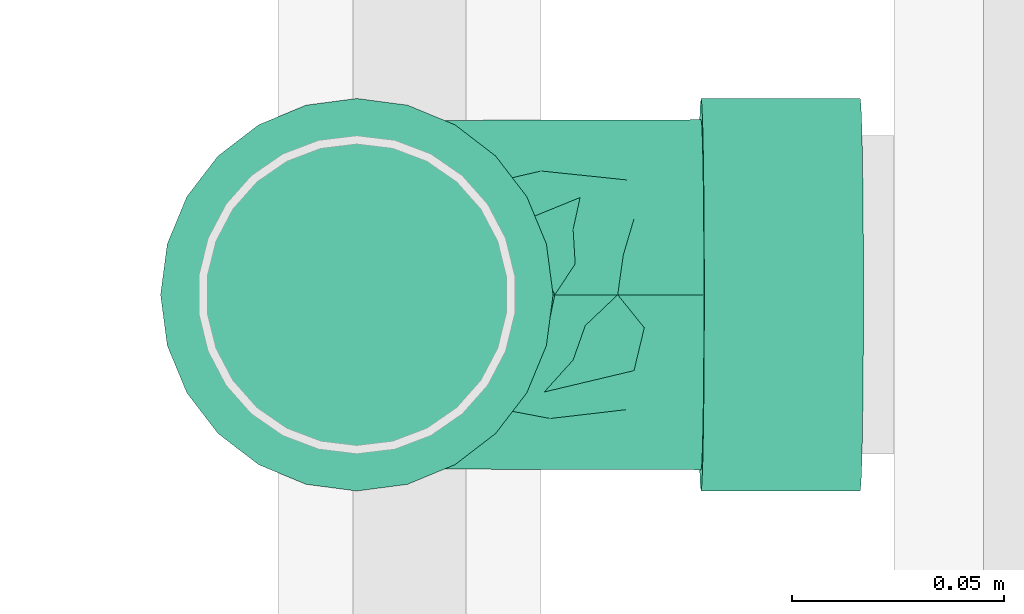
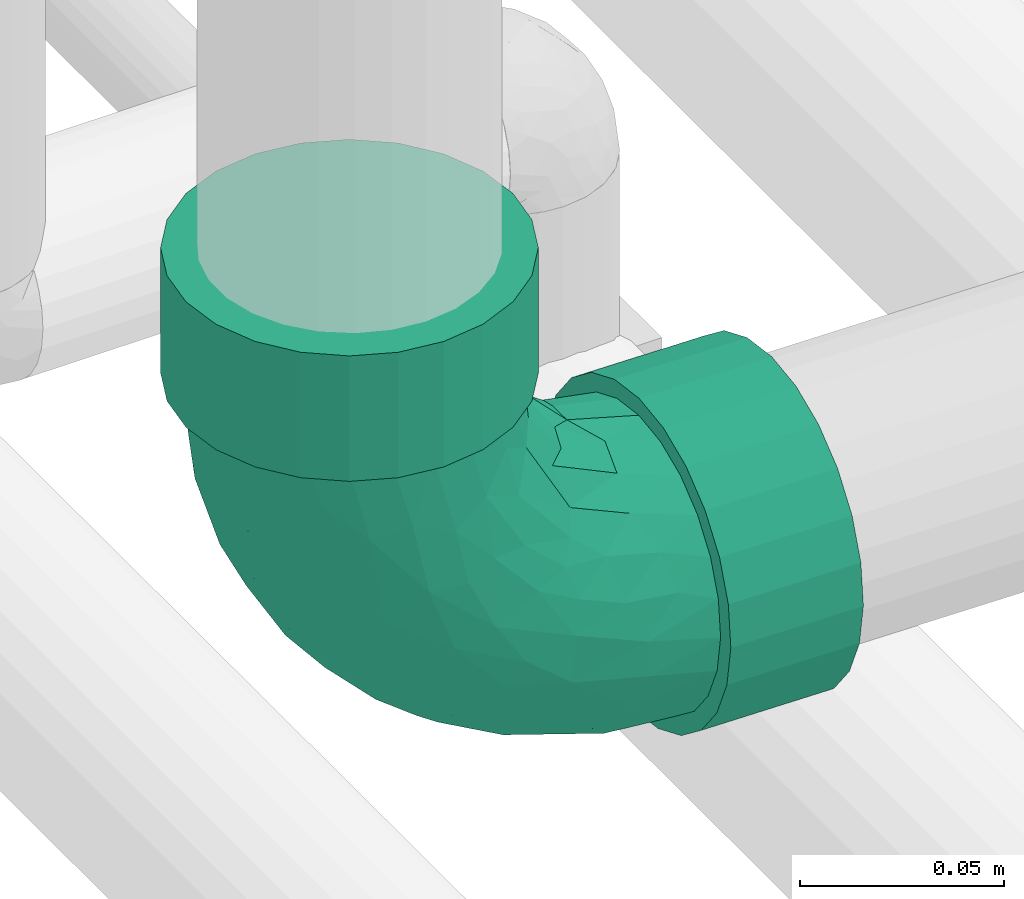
# One storey, part 54 of 83: 1 flow fitting.
"""IFC2X3 building model written with IfcOpenShell, lengths in millimetres."""

import ifcopenshell
import ifcopenshell.guid

model = None  # the IFC model being written
_history = None  # IfcOwnerHistory: only IFC2X3 demands one
_inside = {}  # id of a spatial element -> (the spatial element, [elements in it])
_under = {}  # id of a project, library or spatial element -> (it, [spatial elements below it])
_declared = {}  # id of a project -> (the project, [libraries it declares])
_typed = {}  # id of a type object -> (the type object, [elements of that type])
_made_of = {}  # id of a material, layer set ... -> (it, [elements and type objects made of it])


def new_model(schema):
    """Start an empty IFC model of exactly this schema.

    Asked for "IFC4X3", IfcOpenShell would pick the latest addendum, in which some entities
    have other attributes; the version numbers below select the first issue.
    IFC2X3 requires an IfcOwnerHistory on every rooted entity: one is made here for all.
    """
    global model, _history
    if schema == "IFC4X3":
        model = ifcopenshell.file(schema_version=(4, 3, 0, 0))
    else:
        model = ifcopenshell.file(schema=schema)
    _inside.clear()
    _under.clear()
    _declared.clear()
    _typed.clear()
    _made_of.clear()
    _history = None
    if model.schema == "IFC2X3":
        org = make("IfcOrganization", Name="unknown")
        user = make(
            "IfcPersonAndOrganization",
            ThePerson=make("IfcPerson", FamilyName="unknown"),
            TheOrganization=org,
        )
        app = make(
            "IfcApplication",
            ApplicationDeveloper=org,
            Version="unknown",
            ApplicationFullName="unknown",
            ApplicationIdentifier="unknown",
        )
        _history = make(
            "IfcOwnerHistory",
            OwningUser=user,
            OwningApplication=app,
            ChangeAction="ADDED",
            CreationDate=0,
        )
    return model


def make(cls, **values):
    """One entity of the class cls with the attributes given. An attribute that is None is left unset."""
    return model.create_entity(
        cls, **{name: value for name, value in values.items() if value is not None}
    )


def entity(cls, *values):
    """Any entity or typed value of the class cls, its attributes in the order of the schema. None: left unset."""
    e = model.create_entity(cls)
    for i, value in enumerate(values):
        if value is not None:
            e[i] = value
    return e


def rooted(cls, **values):
    """An entity with a GlobalId (a new one), such as an element, a storey or a relation."""
    return make(cls, GlobalId=ifcopenshell.guid.new(), OwnerHistory=_history, **values)


def si_unit(unit_type, name, prefix=None):
    """IfcSIUnit, for example si_unit("LENGTHUNIT", "METRE", prefix="MILLI")."""
    return make("IfcSIUnit", UnitType=unit_type, Prefix=prefix, Name=name)


def converted_unit(unit_type, name, factor, base, dimensions=None, offset=None):
    """IfcConversionBasedUnit, such as the inch: factor (a typed value) times the base unit."""
    return make(
        "IfcConversionBasedUnit"
        if offset is None
        else "IfcConversionBasedUnitWithOffset",
        ConversionOffset=offset,
        Dimensions=None
        if dimensions is None
        else entity("IfcDimensionalExponents", *dimensions),
        UnitType=unit_type,
        Name=name,
        ConversionFactor=make(
            "IfcMeasureWithUnit", ValueComponent=factor, UnitComponent=base
        ),
    )


def derived_unit(unit_type, elements):
    """IfcDerivedUnit: a product of units, each with its exponent."""
    return make(
        "IfcDerivedUnit",
        Elements=[
            make("IfcDerivedUnitElement", Unit=unit, Exponent=power)
            for unit, power in elements
        ],
        UnitType=unit_type,
    )


def assignment(units):
    """IfcUnitAssignment: the units of a project."""
    return None if units is None else make("IfcUnitAssignment", Units=units)


def point(xyz):
    """IfcCartesianPoint."""
    return None if xyz is None else make("IfcCartesianPoint", Coordinates=xyz)


def direction(xyz):
    """IfcDirection."""
    return None if xyz is None else make("IfcDirection", DirectionRatios=xyz)


def frame(location, z_axis=None, x_axis=None):
    """IfcAxis2Placement3D, a coordinate frame: its origin and axes. An axis left out is left unset."""
    return make(
        "IfcAxis2Placement3D",
        Location=point(location),
        Axis=direction(z_axis),
        RefDirection=direction(x_axis),
    )


def origin_with_axes():
    """The frame at (0, 0, 0) with the z axis (0, 0, 1) and the x axis (1, 0, 0) written out."""
    return frame((0.0, 0.0, 0.0), z_axis=(0.0, 0.0, 1.0), x_axis=(1.0, 0.0, 0.0))


def place(relative_to, where):
    """IfcLocalPlacement: puts the frame where relative to a parent placement (None: the world)."""
    return make(
        "IfcLocalPlacement", PlacementRelTo=relative_to, RelativePlacement=where
    )


def context(
    kind, dimensions, precision=None, world=None, true_north=None, identifier=None
):
    """IfcGeometricRepresentationContext, for example the 3D "Model" context."""
    return make(
        "IfcGeometricRepresentationContext",
        ContextIdentifier=identifier,
        ContextType=kind,
        CoordinateSpaceDimension=dimensions,
        Precision=precision,
        WorldCoordinateSystem=world,
        TrueNorth=true_north,
    )


def subcontext(parent, identifier, kind, view, scale=None):
    """IfcGeometricRepresentationSubContext, for example "Body" below "Model"."""
    return make(
        "IfcGeometricRepresentationSubContext",
        ContextIdentifier=identifier,
        ContextType=kind,
        ParentContext=parent,
        TargetScale=scale,
        TargetView=view,
    )


def project(units=None, contexts=None):
    """IfcProject with its units and contexts."""
    return rooted(
        "IfcProject",
        Name="project",
        RepresentationContexts=contexts,
        UnitsInContext=assignment(units),
    )


def spatial(cls, under=None, at=None, **own):
    """A site, building, storey or space (cls), placed at a placement, below another one or the project."""
    s = rooted(cls, ObjectPlacement=at, **own)
    if under is not None:
        _under.setdefault(under.id(), (under, []))[1].append(s)
    return s


def faces_of(points, faces, orient=None, outer=None):
    """IfcFace entities. A face is a list of loops; a loop is a list of indices into points, from 0.

    orient and outer hold one flag for each loop. By default every Orientation is true, the
    first loop of a face is its IfcFaceOuterBound and the others are IfcFaceBound.
    """
    made = []
    for i, loops in enumerate(faces):
        bounds = []
        for j, loop in enumerate(loops):
            is_outer = j == 0 if outer is None else outer[i][j]
            bounds.append(
                make(
                    "IfcFaceOuterBound" if is_outer else "IfcFaceBound",
                    Bound=make("IfcPolyLoop", Polygon=[points[k] for k in loop]),
                    Orientation=True if orient is None else orient[i][j],
                )
            )
        made.append(make("IfcFace", Bounds=bounds))
    return made


def open_shell(faces, orient=None, outer=None):
    """The faces of one IfcOpenShell. surface_model builds it on its shared points."""
    return ("IfcOpenShell", faces, orient, outer)


def surface_model(cls, points, shells):
    """IfcFaceBasedSurfaceModel or IfcShellBasedSurfaceModel (cls): surfaces that need not close."""
    shared = [point(p) for p in points]
    made = [make(c, CfsFaces=faces_of(shared, fs, o, b)) for c, fs, o, b in shells]
    if cls == "IfcFaceBasedSurfaceModel":
        return make(cls, FbsmFaces=made)
    return make(cls, SbsmBoundary=made)


def shape(context_of_items, identifier, shape_type, items):
    """IfcShapeRepresentation: the items that make up one representation, for example the "Body"."""
    return make(
        "IfcShapeRepresentation",
        ContextOfItems=context_of_items,
        RepresentationIdentifier=identifier,
        RepresentationType=shape_type,
        Items=items,
    )


def source(mapping_origin, context_of_items, identifier, shape_type, items):
    """IfcRepresentationMap: a shape defined once, which mapped items show again and again."""
    return make(
        "IfcRepresentationMap",
        MappingOrigin=mapping_origin,
        MappedRepresentation=shape(context_of_items, identifier, shape_type, items),
    )


def transform(
    local_origin,
    x_axis=None,
    y_axis=None,
    z_axis=None,
    scale=None,
    scale2=None,
    scale3=None,
    uniform=True,
):
    """IfcCartesianTransformationOperator3D, or its non-uniform kind. x_axis, y_axis, z_axis: its Axis1, 2, 3."""
    if uniform:
        return make(
            "IfcCartesianTransformationOperator3D",
            Axis1=direction(x_axis),
            Axis2=direction(y_axis),
            LocalOrigin=point(local_origin),
            Scale=scale,
            Axis3=direction(z_axis),
        )
    return make(
        "IfcCartesianTransformationOperator3DnonUniform",
        Axis1=direction(x_axis),
        Axis2=direction(y_axis),
        LocalOrigin=point(local_origin),
        Scale=scale,
        Axis3=direction(z_axis),
        Scale2=scale2,
        Scale3=scale3,
    )


def mapped(mapping_source, mapping_target):
    """IfcMappedItem: shows the shape of a source again, moved by a transform."""
    return make(
        "IfcMappedItem", MappingSource=mapping_source, MappingTarget=mapping_target
    )


def made_of(thing, what):
    """Note that an element or type object is made of a material, layer set ...; save() writes the relation."""
    if what is not None:
        _made_of.setdefault(what.id(), (what, []))[1].append(thing)
    return thing


def type_object(cls, material=None, **own):
    """A type object (cls), such as IfcWallType, which elements share."""
    return made_of(rooted(cls, **own), material)


def element(
    cls,
    number,
    at=None,
    inside=None,
    cuts=None,
    type_object=None,
    material=None,
    context=None,
    identifier="Body",
    shape_type=None,
    held_by="IfcProductDefinitionShape",
    body=None,
    shapes=None,
    **own,
):
    """One element of the class cls, such as IfcWall. Its Tag is "e" and its number.

    at: its placement. inside: the storey or other place that contains it. cuts: it is an
    opening in that element (IfcRelVoidsElement). A single representation is given by context,
    identifier, shape_type and body (its items); several are given by shapes. held_by: the class
    of the entity that holds the representations. save() writes the other relations.
    """
    e = rooted(cls, Tag="e%d" % number, ObjectPlacement=at, **own)
    if body is not None:
        shapes = [shape(context, identifier, shape_type, body)]
    if shapes is not None:
        e.Representation = make(held_by, Representations=shapes)
    if inside is not None:
        _inside.setdefault(inside.id(), (inside, []))[1].append(e)
    if cuts is not None:
        rooted(
            "IfcRelVoidsElement", RelatingBuildingElement=cuts, RelatedOpeningElement=e
        )
    if type_object is not None:
        _typed.setdefault(type_object.id(), (type_object, []))[1].append(e)
    return made_of(e, material)


def aggregate(whole, parts):
    """IfcRelAggregates: a whole, such as a stair, and the parts it consists of."""
    return rooted("IfcRelAggregates", RelatingObject=whole, RelatedObjects=parts)


def save(model, path):
    """Write the relations noted so far, then the file.

    IfcRelAggregates (storeys below a building ...), IfcRelContainedInSpatialStructure (elements
    in a storey), IfcRelDefinesByType, IfcRelAssociatesMaterial and IfcRelDeclares: one each for
    every whole, place, type object, material and project.
    """
    for whole, parts in _under.values():
        aggregate(whole, parts)
    for where, things in _inside.values():
        rooted(
            "IfcRelContainedInSpatialStructure",
            RelatedElements=things,
            RelatingStructure=where,
        )
    for kind, things in _typed.values():
        rooted("IfcRelDefinesByType", RelatedObjects=things, RelatingType=kind)
    for what, things in _made_of.values():
        rooted("IfcRelAssociatesMaterial", RelatedObjects=things, RelatingMaterial=what)
    for by, libraries in _declared.values():
        rooted("IfcRelDeclares", RelatingContext=by, RelatedDefinitions=libraries)
    model.write(path)


model = new_model("IFC2X3")

# Units and contexts
model_context = context("Model", 3, precision=0.01, world=frame((0.0, 4.29681676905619e-09, 0.0)), true_north=direction((4.01073788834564e-13, 1.0)))
plan_context = context("Plan", 3, precision=0.01, world=frame((0.0, 4.29681676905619e-09, 0.0)), true_north=direction((4.01073788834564e-13, 1.0)))
body_context = subcontext(model_context, "Body", "Model", "MODEL_VIEW")
ifc_project = project(units=[converted_unit("PLANEANGLEUNIT", "DEGREE", entity("IfcPositiveLengthMeasure", 0.0174532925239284), si_unit("PLANEANGLEUNIT", "RADIAN"), dimensions=[0, 0, 0, 0, 0, 0, 0]), si_unit("AREAUNIT", "SQUARE_METRE"), si_unit("LENGTHUNIT", "METRE", prefix="MILLI"), si_unit("MASSUNIT", "GRAM", prefix="KILO"), si_unit("POWERUNIT", "WATT"), si_unit("PRESSUREUNIT", "PASCAL"), si_unit("FORCEUNIT", "NEWTON", prefix="KILO"), si_unit("ELECTRICVOLTAGEUNIT", "VOLT"), si_unit("ELECTRICCURRENTUNIT", "AMPERE"), si_unit("THERMODYNAMICTEMPERATUREUNIT", "DEGREE_CELSIUS"), si_unit("TIMEUNIT", "SECOND"), si_unit("VOLUMEUNIT", "CUBIC_METRE"), derived_unit("LINEARVELOCITYUNIT", [(si_unit("LENGTHUNIT", "METRE"), 1), (si_unit("TIMEUNIT", "SECOND"), -1)]), derived_unit("VOLUMETRICFLOWRATEUNIT", [(si_unit("VOLUMEUNIT", "CUBIC_METRE"), 1), (si_unit("TIMEUNIT", "SECOND"), -1)]), derived_unit("THERMALTRANSMITTANCEUNIT", [(si_unit("POWERUNIT", "WATT"), 1), (si_unit("THERMODYNAMICTEMPERATUREUNIT", "KELVIN"), -1), (si_unit("AREAUNIT", "SQUARE_METRE"), -1)]), derived_unit("SOUNDPRESSUREUNIT", [(si_unit("PRESSUREUNIT", "PASCAL"), 1)])], contexts=[model_context, plan_context])

# Site, building, storey
site_placement = place(None, frame((0.0, -4.29681676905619e-09, 0.0), z_axis=(0.0, 0.0, 1.0), x_axis=(1.0, 0.0, 0.0)))
site = spatial("IfcSite", under=ifc_project, at=site_placement, Name="ENGM", CompositionType="ELEMENT")
building_placement = place(site_placement, frame((0.0, 4.29681676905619e-09, 0.0), z_axis=(0.0, 0.0, 1.0), x_axis=(1.0, 0.0, 0.0)))
building = spatial("IfcBuilding", under=site, at=building_placement, Name="TI", CompositionType="ELEMENT")
storey_placement = place(building_placement, frame((0.0, 0.0, 204000.0), z_axis=(0.0, 0.0, 1.0), x_axis=(1.0, 0.0, 0.0)))
storey = spatial("IfcBuildingStorey", under=building, at=storey_placement, Name="Nivå D", CompositionType="ELEMENT", Elevation=204000.0)

# Flow fitting
pipe_fitting_type = type_object("IfcPipeFittingType", Name="magi_sewer_bend_001", PredefinedType="BEND")
shared_shape = source(origin_with_axes(), body_context, "Body", "SurfaceModel", [
    surface_model("IfcShellBasedSurfaceModel", [(-118.63645, -44.67407, -11.97038), (-118.63645, -11.97038, -44.67407), (-118.63645, -23.125, -40.05367), (-118.63645, -32.70369, -32.70369), (-118.63645, 0.0, -46.25), (-118.63645, -40.05367, -23.125), (-118.63645, -46.25, 0.0), (-118.63645, 11.97038, -44.67407), (-118.63645, 32.70369, -32.70369), (-118.63645, 23.125, -40.05367), (-118.63645, 44.67407, -11.97038), (-118.63645, 40.05367, -23.125), (-118.63645, -32.70369, 32.70369), (-118.63645, -44.67407, 11.97038), (-118.63645, -40.05367, 23.125), (-118.63645, 40.05367, 23.125), (-118.63645, -23.125, 40.05367), (-118.63645, -11.97038, 44.67407), (-118.63645, 0.0, 46.25), (-118.63645, 11.97038, 44.67407), (-118.63645, 44.67407, 11.97038), (-118.63645, 46.25, 0.0), (-118.63645, 23.125, 40.05367), (-118.63645, 32.70369, 32.70369), (-81.13645, 0.0, 46.25), (-81.13645, -11.97038, 44.67407), (-81.13645, -23.125, 40.05367), (-81.13645, -32.70369, 32.70369), (-81.13645, -40.05367, 23.125), (-81.13645, -44.67407, 11.97038), (-81.13645, 40.05367, 23.125), (-81.13645, -44.67407, -11.97038), (-81.13645, 23.125, 40.05367), (-81.13645, 32.70369, 32.70369), (-81.13645, 11.97038, 44.67407), (-81.13645, 44.67407, 11.97038), (-81.13645, 44.67407, -11.97038), (-81.13645, 46.25, 0.0), (-81.13645, -32.70369, -32.70369), (-81.13645, -40.05367, -23.125), (-81.13645, -23.125, -40.05367), (-81.13645, -11.97038, -44.67407), (-81.13645, 11.97038, -44.67407), (-81.13645, 32.70369, -32.70369), (-81.13645, 40.05367, -23.125), (-81.13645, 23.125, -40.05367), (-81.13645, 0.0, -46.25), (-81.13645, -46.25, 0.0), (-38.07111, 119.28745, 23.125), (-44.26658, 119.39071, 0.0), (-42.69087, 119.36444, 11.97038), (-9.99172, 118.81946, 44.67407), (-30.72215, 119.16497, 32.70369), (-30.72215, 119.16497, -32.70369), (-21.14479, 119.00535, 40.05367), (42.02511, 117.95251, 23.125), (-9.99172, 118.81946, -44.67407), (-42.69087, 119.36444, -11.97038), (-38.07111, 119.28745, -23.125), (-21.14479, 119.00535, -40.05367), (1.977, 118.61999, 46.25), (34.67615, 118.075, 32.70369), (13.94572, 118.42051, 44.67407), (25.09879, 118.23462, 40.05367), (1.977, 118.61999, -46.25), (46.64486, 117.87552, 11.97038), (48.22058, 117.84926, 0.0), (46.64486, 117.87552, -11.97038), (25.09879, 118.23462, -40.05367), (13.94572, 118.42051, -44.67407), (34.67615, 118.075, -32.70369), (42.02511, 117.95251, -23.125), (46.01995, 80.38072, -11.97038), (47.59566, 80.35446, 0.0), (46.01995, 80.38072, 11.97038), (41.4002, 80.45773, 23.125), (34.05123, 80.5802, 32.70369), (24.47388, 80.73983, 40.05367), (13.32081, 80.92571, 44.67407), (-10.61663, 81.32467, 44.67407), (24.47388, 80.73983, -40.05367), (34.05123, 80.5802, -32.70369), (41.4002, 80.45773, -23.125), (13.32081, 80.92571, -44.67407), (-10.61663, 81.32467, -44.67407), (1.35209, 81.12519, -46.25), (-38.69603, 81.79266, 23.125), (-21.7697, 81.51055, 40.05367), (-31.34706, 81.67018, 32.70369), (-43.31578, 81.86966, 11.97038), (-31.34706, 81.67018, -32.70369), (-21.7697, 81.51055, -40.05367), (-43.31578, 81.86966, -11.97038), (-38.69603, 81.79266, -23.125), (-44.89149, 81.89592, 0.0), (1.35209, 81.12519, 46.25), (-81.13645, 10.67629, -39.84444), (-81.13645, 0.0, -41.25), (-81.13645, 35.72355, -20.625), (-81.13645, 20.625, -35.72355), (-81.13645, -10.67629, -39.84444), (-81.13645, 29.16816, -29.16816), (-81.13645, 39.84444, -10.67629), (-81.13645, -29.16816, -29.16816), (-81.13645, -35.72355, -20.625), (-81.13645, -20.625, -35.72355), (-81.13645, -39.84444, -10.67629), (-81.13645, -41.25, 0.0), (-81.13645, -39.84444, 10.67629), (-81.13645, 41.25, 0.0), (-81.13645, 35.72355, 20.625), (-81.13645, 39.84444, 10.67629), (-81.13645, 10.67629, 39.84444), (-81.13645, 20.625, 35.72355), (-81.13645, 29.16816, 29.16816), (-81.13645, -35.72355, 20.625), (-81.13645, -29.16816, 29.16816), (-81.13645, -10.67629, 39.84444), (-81.13645, -20.625, 35.72355), (-81.13645, 0.0, 41.25), (-9.32272, 81.3031, -39.84444), (37.07067, 80.52988, -20.625), (1.35209, 81.12519, -41.25), (-27.81202, 81.61126, -29.16816), (-19.27005, 81.46889, -35.72355), (41.191, 80.46121, 10.67629), (-34.3665, 81.7205, -20.625), (21.97422, 80.78149, -35.72355), (30.51619, 80.63912, -29.16816), (12.02689, 80.94728, -39.84444), (41.191, 80.46121, -10.67629), (42.59636, 80.43779, 0.0), (-38.48682, 81.78918, -10.67629), (-39.89219, 81.81259, 0.0), (-38.48682, 81.78918, 10.67629), (-34.3665, 81.7205, 20.625), (-27.81202, 81.61126, 29.16816), (-19.27005, 81.46889, 35.72355), (-9.32272, 81.3031, 39.84444), (30.51619, 80.63912, 29.16816), (1.35209, 81.12519, 41.25), (37.07067, 80.52988, 20.625), (12.02689, 80.94728, 39.84444), (21.97422, 80.78149, 35.72355), (-54.39442, -36.17404, 12.99457), (-59.16193, -32.03479, 23.17612), (-43.28809, -35.32005, 0.0), (-60.84196, -38.07033, 0.0), (23.37041, 18.86095, 10.62349), (15.01238, 9.79779, 15.95055), (11.94444, 2.36888, 8.70418), (-61.88845, -5.46813, 40.5533), (-56.57345, 6.31813, 41.17681), (32.38619, 35.45125, 8.39828), (27.1418, 25.72883, 0.0), (-58.98118, -15.54274, 37.10832), (-30.85607, -9.76023, 34.5265), (-40.12451, -0.47476, 40.00525), (-68.72839, -25.45103, 31.89237), (-35.98602, -31.79092, 8.39828), (-26.17756, -26.70928, 0.0), (-6.74396, 6.85729, 33.83574), (-14.04648, -9.83948, 26.468), (-39.19131, 65.31528, 17.88497), (-14.23306, 70.22892, 38.62481), (-4.65309, 60.53836, 41.14609), (-62.27481, 16.19182, 38.95705), (-10.07336, 26.71188, 40.49708), (-19.56807, 7.50587, 38.60631), (-3.30313, 21.70945, 37.91013), (-70.23759, 24.97294, 33.58539), (-13.65396, 39.94702, 41.16014), (-29.72786, 30.22745, 40.21467), (-23.93531, 17.70774, 41.06244), (-62.06374, 44.71052, 9.37653), (-64.65311, 40.27431, 17.88497), (26.59281, 68.29472, 31.89237), (-63.23862, 34.37113, 27.04031), (-42.66984, 45.56196, 29.16641), (-51.8902, 44.18713, 22.91415), (-33.39862, 63.50778, 27.07262), (16.52346, 58.71398, 37.10832), (24.38357, 51.08549, 30.6589), (33.01624, 58.61988, 23.17612), (25.6206, 31.60074, 20.54424), (37.07546, 53.78405, 12.99457), (-9.06702, -18.0985, 0.0), (-19.24778, -23.05286, 10.62349), (6.4987, 61.78873, 40.5533), (-44.29082, 17.50905, 40.50755), (-39.59673, 10.04822, 41.2375), (18.24709, 8.76416, 0.0), (39.07893, 60.1991, 0.0), (-43.03932, 27.67385, 38.13016), (-32.0233, -25.09044, 20.54424), (-51.48473, -23.52888, 30.6589), (-29.00264, 52.56785, 34.64816), (-24.07159, 68.2883, 33.76756), (-50.57861, 53.84244, 7.25586), (-60.71022, 46.66243, 0.0), (19.67072, 31.77171, 27.9348), (10.27307, 30.68913, 34.5265), (10.07219, 13.88056, 26.468), (-45.64426, 61.47939, 0.0), (-41.82083, 67.74942, 7.78687), (-37.43075, 42.9787, 33.8492), (-55.83247, 27.89915, 34.6893), (-31.91377, -18.01784, 28.91129), (-22.76666, 42.19771, 39.59466), (-32.08476, 39.39323, 37.49357), (-16.86515, 55.15006, 39.26198), (-50.12448, 50.96685, 15.38789), (1.14334, 40.11103, 40.00525), (-2.41073, -11.82067, 8.53117), (-9.77489, -14.76888, 15.71619), (-2.34518, 2.38459, 28.45121), (3.16609, -3.21929, 16.67866), (36.03651, 42.69349, 0.0), (4.59003, -4.66717, 0.0), (-62.94239, 34.4523, -27.07262), (-32.0951, -19.13853, -27.9348), (-30.85607, -9.76023, -34.5265), (-14.04648, -9.83948, -26.46799), (-60.45241, 5.66128, -41.14609), (16.52346, 58.71398, -37.10832), (10.27307, 30.68913, -34.5265), (1.14334, 40.11103, -40.00525), (-69.98198, 15.4014, -38.62481), (-23.79901, 70.644, -33.58539), (-33.31253, 63.80261, -27.04031), (-67.04309, 42.94403, -7.78687), (10.07219, 13.88056, -26.468), (18.54716, 31.60909, -28.91129), (-64.65311, 40.27431, -17.88497), (11.94444, 2.36888, -8.70418), (15.01238, 9.79779, -15.95055), (23.37041, 18.86095, -10.62349), (-38.85309, 32.73676, -37.49358), (-41.81246, 23.4667, -39.59466), (-52.07724, 29.87463, -34.64816), (-6.74396, 6.85729, -33.83574), (-26.5403, 10.5171, -40.49708), (-7.17874, 19.69043, -38.60631), (-21.65139, 3.66445, -37.91013), (-67.87768, 25.20623, -33.76756), (-54.39442, -36.17404, -12.99457), (-44.84457, 43.42318, -29.16641), (-59.16193, -32.03479, -23.17612), (-32.0233, -25.09044, -20.54424), (-19.24778, -23.05286, -10.62349), (-35.98602, -31.79092, -8.39828), (-58.98118, -15.54274, -37.10832), (-61.88845, -5.46813, -40.5533), (-54.86135, 17.78185, -39.26198), (-39.71394, 14.31775, -41.16014), (-15.15181, 62.53599, -38.95705), (-5.37449, 56.67088, -41.17681), (-43.67006, 62.80019, -9.37653), (-52.99211, 51.46884, -7.25586), (-26.95278, 43.49451, -38.13017), (-16.76854, 44.57645, -40.50755), (-43.31628, 52.61934, -22.91415), (6.49871, 61.78872, -40.5533), (-2.41073, -11.82067, -8.53117), (37.07546, 53.78405, -12.99457), (33.01624, 58.61988, -23.17612), (-68.72839, -25.45103, -31.89237), (-29.72786, 30.22745, -40.21467), (-17.30642, 24.22707, -41.06244), (26.59281, 68.29472, -31.89237), (-51.48473, -23.52888, -30.6589), (-39.19132, 65.31528, -17.88497), (32.38619, 35.45125, -8.39828), (-42.34897, 38.14177, -33.8492), (-26.96486, 56.28963, -34.6893), (25.62061, 31.60074, -20.54424), (24.38358, 51.08549, -30.6589), (-9.38697, 39.75868, -41.2375), (-50.12448, 50.96685, -15.38789), (-40.12451, -0.47476, -40.00525), (0.23726, -0.24125, -23.998), (-9.77489, -14.76888, -15.71619), (3.16609, -3.2193, -16.67866)], [open_shell([[[0, 1, 2]], [[0, 2, 3]], [[1, 0, 4]], [[0, 3, 5]], [[4, 0, 6]], [[7, 8, 9]], [[8, 7, 4]], [[8, 10, 11]], [[10, 8, 4]], [[4, 6, 10]], [[6, 12, 10]], [[13, 14, 12]], [[10, 12, 15]], [[16, 17, 18]], [[16, 18, 12]], [[19, 12, 18]], [[10, 20, 21]], [[15, 20, 10]], [[15, 22, 23]], [[22, 15, 19]], [[12, 19, 15]], [[6, 13, 12]], [[24, 25, 26]], [[24, 26, 27]], [[27, 28, 29]], [[24, 27, 30]], [[27, 31, 30]], [[32, 30, 33]], [[30, 32, 34]], [[35, 36, 37]], [[30, 34, 24]], [[35, 30, 36]], [[27, 29, 31]], [[36, 30, 31]], [[38, 31, 39]], [[40, 41, 31]], [[40, 31, 38]], [[42, 31, 41]], [[36, 43, 44]], [[36, 31, 43]], [[43, 42, 45]], [[31, 42, 43]], [[41, 46, 42]], [[31, 29, 47]], [[36, 10, 37]], [[44, 11, 36]], [[9, 43, 45]], [[44, 43, 8]], [[7, 45, 42]], [[36, 11, 10]], [[10, 21, 37]], [[7, 9, 45]], [[8, 43, 9]], [[8, 11, 44]], [[4, 7, 42]], [[42, 46, 4]], [[46, 41, 1]], [[5, 39, 31]], [[39, 3, 38]], [[0, 31, 47]], [[1, 40, 2]], [[40, 1, 41]], [[40, 38, 2]], [[38, 3, 2]], [[39, 5, 3]], [[0, 5, 31]], [[47, 6, 0]], [[46, 1, 4]], [[29, 13, 47]], [[28, 14, 29]], [[16, 27, 26]], [[28, 27, 12]], [[17, 26, 25]], [[29, 14, 13]], [[13, 6, 47]], [[17, 16, 26]], [[12, 27, 16]], [[12, 14, 28]], [[18, 17, 25]], [[25, 24, 18]], [[33, 22, 32]], [[35, 15, 30]], [[33, 30, 23]], [[20, 35, 37]], [[32, 19, 34]], [[32, 22, 19]], [[19, 18, 34]], [[33, 23, 22]], [[30, 15, 23]], [[20, 15, 35]], [[37, 21, 20]], [[34, 18, 24]], [[48, 49, 50]], [[51, 48, 52]], [[53, 48, 51]], [[51, 52, 54]], [[55, 56, 51]], [[57, 53, 58]], [[53, 57, 49]], [[53, 56, 59]], [[53, 49, 48]], [[51, 56, 53]], [[51, 60, 61]], [[62, 63, 61]], [[61, 55, 51]], [[64, 55, 65]], [[55, 64, 56]], [[66, 67, 65]], [[64, 68, 69]], [[64, 65, 68]], [[70, 67, 71]], [[67, 70, 68]], [[65, 67, 68]], [[60, 62, 61]], [[72, 73, 74]], [[75, 72, 74]], [[76, 77, 78]], [[72, 75, 76]], [[76, 79, 80]], [[72, 81, 82]], [[81, 72, 80]], [[83, 84, 85]], [[80, 72, 76]], [[83, 80, 84]], [[76, 78, 79]], [[84, 80, 79]], [[86, 79, 87]], [[84, 79, 86]], [[86, 87, 88]], [[84, 86, 89]], [[84, 90, 91]], [[90, 84, 92]], [[90, 92, 93]], [[92, 84, 94]], [[84, 89, 94]], [[79, 78, 95]], [[84, 56, 85]], [[91, 59, 84]], [[58, 90, 93]], [[91, 90, 53]], [[57, 93, 92]], [[84, 59, 56]], [[56, 64, 85]], [[57, 58, 93]], [[53, 90, 58]], [[53, 59, 91]], [[49, 57, 92]], [[92, 94, 49]], [[94, 89, 50]], [[54, 87, 79]], [[87, 52, 88]], [[51, 79, 95]], [[50, 86, 48]], [[86, 50, 89]], [[86, 88, 48]], [[88, 52, 48]], [[87, 54, 52]], [[51, 54, 79]], [[95, 60, 51]], [[94, 50, 49]], [[78, 62, 95]], [[77, 63, 78]], [[55, 76, 75]], [[77, 76, 61]], [[65, 75, 74]], [[78, 63, 62]], [[62, 60, 95]], [[65, 55, 75]], [[61, 76, 55]], [[61, 63, 77]], [[66, 65, 74]], [[74, 73, 66]], [[81, 71, 82]], [[83, 68, 80]], [[81, 80, 70]], [[69, 83, 85]], [[82, 67, 72]], [[82, 71, 67]], [[67, 66, 72]], [[81, 70, 71]], [[80, 68, 70]], [[69, 68, 83]], [[85, 64, 69]], [[72, 66, 73]], [[96, 97, 98]], [[99, 96, 98]], [[100, 98, 97]], [[101, 99, 98]], [[102, 98, 100]], [[103, 104, 105]], [[100, 105, 104]], [[104, 106, 100]], [[106, 102, 100]], [[107, 108, 106]], [[109, 102, 106]], [[110, 111, 109]], [[108, 110, 106]], [[112, 113, 114]], [[108, 114, 110]], [[114, 108, 112]], [[115, 116, 108]], [[117, 108, 116]], [[118, 117, 116]], [[117, 112, 108]], [[117, 119, 112]], [[109, 106, 110]], [[120, 121, 122]], [[123, 120, 124]], [[125, 121, 123]], [[120, 123, 121]], [[125, 123, 126]], [[127, 121, 128]], [[127, 129, 122]], [[121, 127, 122]], [[121, 125, 130]], [[130, 125, 131]], [[126, 132, 133]], [[133, 134, 135]], [[136, 126, 135]], [[136, 137, 138]], [[136, 139, 126]], [[138, 140, 136]], [[125, 139, 141]], [[126, 139, 125]], [[139, 142, 143]], [[142, 139, 140]], [[136, 140, 139]], [[135, 126, 133]], [[144, 145, 115]], [[146, 144, 147]], [[148, 149, 150]], [[144, 115, 108]], [[108, 147, 144]], [[119, 151, 152]], [[116, 115, 145]], [[153, 148, 154]], [[155, 156, 157]], [[158, 118, 116]], [[155, 118, 158]], [[159, 146, 160]], [[161, 156, 162]], [[163, 135, 134]], [[138, 164, 165]], [[112, 166, 113]], [[167, 168, 169]], [[113, 170, 114]], [[117, 151, 119]], [[171, 172, 173]], [[174, 111, 175]], [[175, 111, 110]], [[176, 139, 143]], [[109, 111, 174]], [[177, 178, 179]], [[180, 163, 178]], [[177, 110, 114]], [[119, 152, 112]], [[181, 182, 176]], [[114, 170, 177]], [[183, 184, 185]], [[180, 135, 163]], [[160, 186, 187]], [[140, 188, 142]], [[160, 187, 159]], [[140, 138, 165]], [[189, 190, 173]], [[185, 125, 141]], [[141, 139, 183]], [[183, 185, 141]], [[148, 191, 154]], [[185, 192, 125]], [[193, 166, 189]], [[145, 194, 195]], [[180, 196, 197]], [[198, 199, 174]], [[200, 201, 202]], [[203, 204, 133]], [[193, 205, 206]], [[163, 134, 204]], [[181, 143, 142]], [[180, 136, 135]], [[162, 156, 207]], [[208, 196, 209]], [[118, 155, 117]], [[197, 137, 136]], [[164, 138, 137]], [[210, 171, 165]], [[182, 181, 201]], [[153, 184, 148]], [[196, 180, 178]], [[166, 112, 152]], [[206, 178, 177]], [[175, 179, 211]], [[210, 208, 171]], [[188, 165, 212]], [[156, 155, 195]], [[151, 155, 157]], [[207, 194, 162]], [[156, 161, 168]], [[188, 181, 142]], [[168, 161, 169]], [[212, 201, 181]], [[201, 161, 202]], [[184, 200, 202]], [[187, 213, 214]], [[194, 145, 144]], [[158, 145, 195]], [[176, 183, 139]], [[184, 183, 182]], [[189, 166, 152]], [[170, 166, 206]], [[193, 209, 205]], [[210, 164, 197]], [[177, 175, 110]], [[174, 175, 211]], [[198, 204, 203]], [[211, 179, 163]], [[214, 194, 187]], [[215, 216, 202]], [[162, 215, 161]], [[149, 216, 150]], [[189, 173, 172]], [[212, 165, 171]], [[168, 173, 157]], [[171, 173, 167]], [[165, 188, 140]], [[181, 188, 212]], [[155, 151, 117]], [[152, 151, 157]], [[108, 107, 147]], [[192, 185, 217]], [[192, 131, 125]], [[213, 187, 186]], [[159, 194, 144]], [[213, 150, 216]], [[185, 153, 217]], [[184, 202, 149]], [[189, 152, 190]], [[193, 189, 172]], [[209, 193, 172]], [[166, 193, 206]], [[208, 209, 172]], [[205, 209, 196]], [[198, 174, 211]], [[174, 199, 109]], [[204, 211, 163]], [[199, 198, 203]], [[204, 198, 211]], [[133, 204, 134]], [[152, 157, 190]], [[157, 173, 190]], [[171, 208, 172]], [[196, 208, 210]], [[177, 179, 175]], [[163, 179, 178]], [[218, 191, 150]], [[214, 213, 216]], [[150, 213, 218]], [[191, 148, 150]], [[213, 186, 218]], [[184, 149, 148]], [[202, 216, 149]], [[216, 162, 214]], [[194, 214, 162]], [[196, 178, 205]], [[206, 205, 178]], [[180, 197, 136]], [[210, 197, 196]], [[156, 168, 157]], [[161, 201, 169]], [[201, 212, 169]], [[167, 169, 212]], [[171, 167, 212]], [[168, 167, 173]], [[194, 159, 187]], [[146, 159, 144]], [[217, 153, 154]], [[184, 153, 185]], [[166, 170, 113]], [[177, 170, 206]], [[197, 164, 137]], [[165, 164, 210]], [[145, 158, 116]], [[155, 158, 195]], [[181, 176, 143]], [[183, 176, 182]], [[156, 195, 207]], [[194, 207, 195]], [[184, 182, 200]], [[201, 200, 182]], [[216, 215, 162]], [[202, 161, 215]], [[98, 219, 101]], [[220, 221, 222]], [[97, 96, 223]], [[224, 225, 226]], [[96, 99, 227]], [[123, 228, 229]], [[199, 230, 109]], [[231, 225, 232]], [[233, 102, 230]], [[234, 235, 236]], [[237, 238, 239]], [[225, 231, 240]], [[241, 242, 243]], [[244, 99, 101]], [[104, 245, 106]], [[127, 224, 129]], [[245, 147, 106]], [[239, 219, 246]], [[245, 104, 247]], [[219, 98, 233]], [[248, 249, 250]], [[219, 233, 246]], [[251, 105, 100]], [[130, 131, 192]], [[252, 100, 97]], [[248, 245, 247]], [[253, 254, 223]], [[255, 120, 256]], [[257, 258, 203]], [[259, 255, 260]], [[133, 132, 257]], [[219, 239, 244]], [[261, 229, 246]], [[122, 262, 256]], [[234, 218, 263]], [[123, 124, 228]], [[255, 124, 120]], [[264, 265, 121]], [[122, 129, 262]], [[98, 102, 233]], [[266, 103, 105]], [[123, 229, 126]], [[254, 267, 268]], [[269, 224, 127]], [[270, 266, 251]], [[257, 132, 271]], [[122, 256, 120]], [[217, 154, 272]], [[128, 121, 265]], [[269, 127, 128]], [[264, 130, 192]], [[270, 251, 221]], [[264, 192, 217]], [[249, 186, 160]], [[154, 191, 236]], [[130, 264, 121]], [[259, 273, 274]], [[96, 227, 223]], [[265, 275, 276]], [[132, 126, 271]], [[260, 277, 268]], [[104, 103, 247]], [[274, 246, 229]], [[271, 261, 278]], [[253, 238, 254]], [[252, 223, 279]], [[252, 251, 100]], [[242, 240, 243]], [[279, 221, 251]], [[221, 240, 222]], [[225, 224, 276]], [[262, 224, 226]], [[232, 275, 231]], [[225, 240, 242]], [[250, 249, 160]], [[248, 220, 222]], [[266, 247, 103]], [[248, 247, 270]], [[275, 265, 264]], [[269, 265, 276]], [[260, 255, 256]], [[228, 255, 274]], [[259, 237, 273]], [[253, 227, 244]], [[229, 271, 126]], [[257, 271, 278]], [[258, 230, 199]], [[278, 261, 233]], [[280, 240, 231]], [[281, 282, 263]], [[235, 275, 236]], [[280, 282, 281]], [[260, 268, 267]], [[279, 223, 254]], [[242, 268, 226]], [[254, 268, 241]], [[223, 252, 97]], [[251, 252, 279]], [[224, 262, 129]], [[256, 262, 226]], [[147, 245, 146]], [[147, 107, 106]], [[249, 263, 186]], [[245, 250, 146]], [[248, 222, 281]], [[154, 236, 272]], [[234, 263, 282]], [[272, 275, 264]], [[260, 256, 277]], [[259, 260, 267]], [[237, 259, 267]], [[255, 259, 274]], [[238, 237, 267]], [[273, 237, 239]], [[258, 257, 278]], [[257, 203, 133]], [[230, 278, 233]], [[203, 258, 199]], [[230, 258, 278]], [[109, 230, 102]], [[256, 226, 277]], [[226, 268, 277]], [[254, 238, 267]], [[239, 238, 253]], [[229, 261, 271]], [[233, 261, 246]], [[281, 263, 249]], [[235, 234, 282]], [[236, 191, 234]], [[280, 235, 282]], [[218, 234, 191]], [[218, 186, 263]], [[275, 235, 231]], [[248, 281, 249]], [[280, 281, 222]], [[239, 246, 273]], [[274, 273, 246]], [[219, 244, 101]], [[253, 244, 239]], [[225, 242, 226]], [[240, 221, 243]], [[221, 279, 243]], [[241, 243, 279]], [[254, 241, 279]], [[242, 241, 268]], [[146, 250, 160]], [[248, 250, 245]], [[275, 272, 236]], [[217, 272, 264]], [[255, 228, 124]], [[229, 228, 274]], [[244, 227, 99]], [[223, 227, 253]], [[251, 266, 105]], [[247, 266, 270]], [[265, 269, 128]], [[224, 269, 276]], [[248, 270, 220]], [[221, 220, 270]], [[225, 276, 232]], [[275, 232, 276]], [[240, 280, 222]], [[235, 280, 231]]])]),
])
flow_fitting_placement = place(storey_placement, frame((599719.85559, 693473.102, 6331.90143), z_axis=(0.0, -1.0, 0.0), x_axis=(0.0, 0.0, -1.0)))
element("IfcFlowFitting", 1, at=flow_fitting_placement, inside=storey, type_object=pipe_fitting_type, Name="magi_sewer_bend_001", context=body_context, shape_type="MappedRepresentation", body=[
    mapped(shared_shape, transform((0.0, 0.0, 0.0), scale=1.0)),
])

save(model, "model.ifc")
